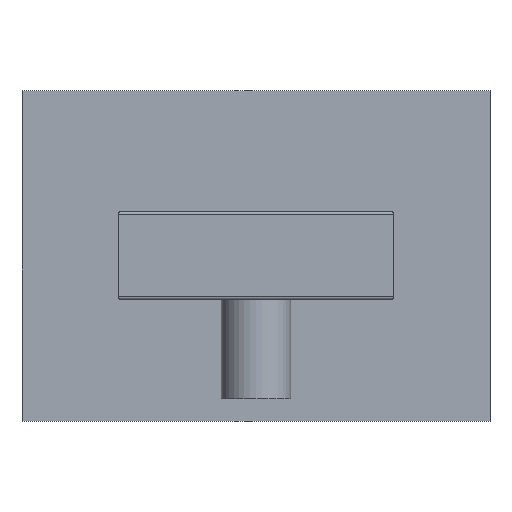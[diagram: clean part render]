
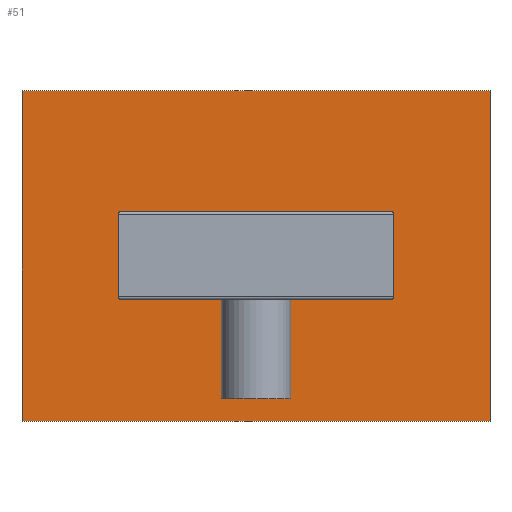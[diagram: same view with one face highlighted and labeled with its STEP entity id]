
A CAD part, top view. The second image highlights one B-rep face of the part: STEP entity #51.
In plain terms, the highlighted planar face has unit normal (0, 0, 1).
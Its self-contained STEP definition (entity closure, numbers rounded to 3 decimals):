
#51 = ADVANCED_FACE('',(#52),#86,.T.);
#52 = FACE_BOUND('',#53,.T.);
#53 = EDGE_LOOP('',(#54,#64,#72,#80));
#54 = ORIENTED_EDGE('',*,*,#55,.T.);
#55 = EDGE_CURVE('',#56,#58,#60,.T.);
#56 = VERTEX_POINT('',#57);
#57 = CARTESIAN_POINT('',(-42.5,22.,3.
    ));
#58 = VERTEX_POINT('',#59);
#59 = CARTESIAN_POINT('',(-42.5,-38.,3.
    ));
#60 = LINE('',#61,#62);
#61 = CARTESIAN_POINT('',(-42.5,22.,3.
    ));
#62 = VECTOR('',#63,1.);
#63 = DIRECTION('',(0.,-1.,0.));
#64 = ORIENTED_EDGE('',*,*,#65,.T.);
#65 = EDGE_CURVE('',#58,#66,#68,.T.);
#66 = VERTEX_POINT('',#67);
#67 = CARTESIAN_POINT('',(42.5,-38.,3.
    ));
#68 = LINE('',#69,#70);
#69 = CARTESIAN_POINT('',(-42.5,-38.,3.
    ));
#70 = VECTOR('',#71,1.);
#71 = DIRECTION('',(1.,0.,0.));
#72 = ORIENTED_EDGE('',*,*,#73,.T.);
#73 = EDGE_CURVE('',#66,#74,#76,.T.);
#74 = VERTEX_POINT('',#75);
#75 = CARTESIAN_POINT('',(42.5,22.,3.
    ));
#76 = LINE('',#77,#78);
#77 = CARTESIAN_POINT('',(42.5,-38.,3.
    ));
#78 = VECTOR('',#79,1.);
#79 = DIRECTION('',(0.,1.,0.));
#80 = ORIENTED_EDGE('',*,*,#81,.T.);
#81 = EDGE_CURVE('',#74,#56,#82,.T.);
#82 = LINE('',#83,#84);
#83 = CARTESIAN_POINT('',(42.5,22.,3.
    ));
#84 = VECTOR('',#85,1.);
#85 = DIRECTION('',(-1.,0.,0.));
#86 = PLANE('',#87);
#87 = AXIS2_PLACEMENT_3D('',#88,#89,#90);
#88 = CARTESIAN_POINT('',(-42.5,-37.8,3.
    ));
#89 = DIRECTION('',(0.,0.,1.));
#90 = DIRECTION('',(0.,-1.,0.));
